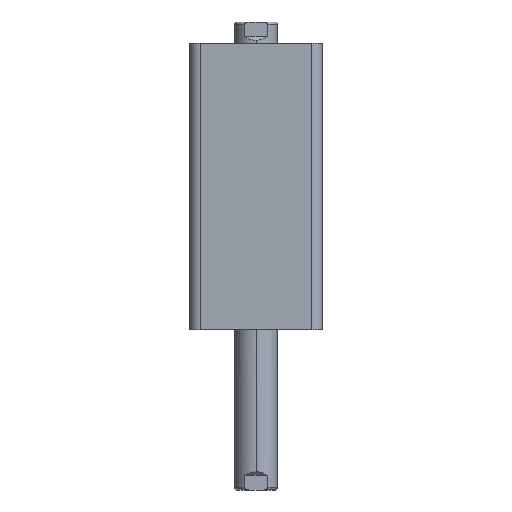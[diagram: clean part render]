
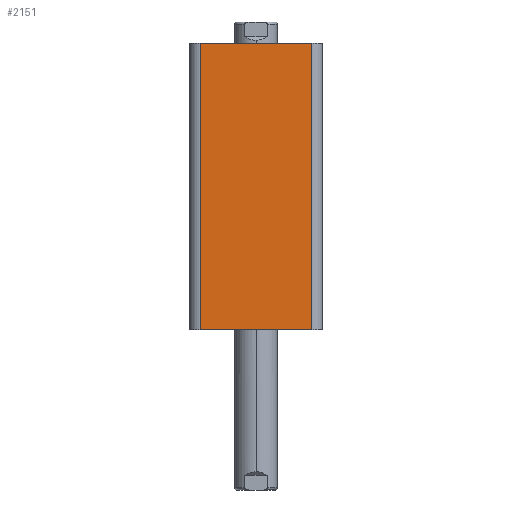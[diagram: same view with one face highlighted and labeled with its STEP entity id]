
A CAD part, left-side view. The second image highlights one B-rep face of the part: STEP entity #2151.
In plain terms, the highlighted planar face has unit normal (-1, 0, 0).
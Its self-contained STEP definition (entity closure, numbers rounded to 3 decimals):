
#378 = EDGE_LOOP ( 'NONE', ( #604, #605, #606, #607 ) ) ;
#514 = VERTEX_POINT ( 'NONE', #2484 ) ;
#515 = VERTEX_POINT ( 'NONE', #2489 ) ;
#521 = VERTEX_POINT ( 'NONE', #2494 ) ;
#522 = VERTEX_POINT ( 'NONE', #2495 ) ;
#604 = ORIENTED_EDGE ( 'NONE', *, *, #2228, .T. ) ;
#605 = ORIENTED_EDGE ( 'NONE', *, *, #2227, .T. ) ;
#606 = ORIENTED_EDGE ( 'NONE', *, *, #2226, .F. ) ;
#607 = ORIENTED_EDGE ( 'NONE', *, *, #2225, .T. ) ;
#767 = CARTESIAN_POINT ( 'NONE',  ( -31., 31., 134. ) ) ;
#777 = CARTESIAN_POINT ( 'NONE',  ( -31., 26., 134. ) ) ;
#778 = DIRECTION ( 'NONE',  ( 0., 0., -1. ) ) ;
#779 = DIRECTION ( 'NONE',  ( 0., -1., 0. ) ) ;
#780 = CARTESIAN_POINT ( 'NONE',  ( -31., -26., 134. ) ) ;
#781 = DIRECTION ( 'NONE',  ( 0., 0., 1. ) ) ;
#782 = CARTESIAN_POINT ( 'NONE',  ( -31., 31., 0. ) ) ;
#783 = DIRECTION ( 'NONE',  ( 0., -1., 0. ) ) ;
#1908 = FACE_OUTER_BOUND ( 'NONE', #378, .T. ) ;
#2042 = LINE ( 'NONE', #767, #2052 ) ;
#2047 = LINE ( 'NONE', #777, #2050 ) ;
#2050 = VECTOR ( 'NONE', #778, 1000. ) ;
#2051 = LINE ( 'NONE', #780, #2054 ) ;
#2052 = VECTOR ( 'NONE', #779, 1000. ) ;
#2053 = LINE ( 'NONE', #782, #2056 ) ;
#2054 = VECTOR ( 'NONE', #781, 1000. ) ;
#2056 = VECTOR ( 'NONE', #783, 1000. ) ;
#2151 = ADVANCED_FACE ( 'NONE', ( #1908 ), #3104, .F. ) ;
#2225 = EDGE_CURVE ( 'NONE', #515, #522, #2047, .T. ) ;
#2226 = EDGE_CURVE ( 'NONE', #515, #514, #2042, .T. ) ;
#2227 = EDGE_CURVE ( 'NONE', #521, #514, #2051, .T. ) ;
#2228 = EDGE_CURVE ( 'NONE', #522, #521, #2053, .T. ) ;
#2410 = AXIS2_PLACEMENT_3D ( 'NONE', #3096, #3106, #3107 ) ;
#2484 = CARTESIAN_POINT ( 'NONE',  ( -31., -26., 134. ) ) ;
#2489 = CARTESIAN_POINT ( 'NONE',  ( -31., 26., 134. ) ) ;
#2494 = CARTESIAN_POINT ( 'NONE',  ( -31., -26., 0. ) ) ;
#2495 = CARTESIAN_POINT ( 'NONE',  ( -31., 26., 0. ) ) ;
#3096 = CARTESIAN_POINT ( 'NONE',  ( -31., 31., 134. ) ) ;
#3104 = PLANE ( 'NONE',  #2410 ) ;
#3106 = DIRECTION ( 'NONE',  ( 1., 0., 0. ) ) ;
#3107 = DIRECTION ( 'NONE',  ( 0., 1., 0. ) ) ;
